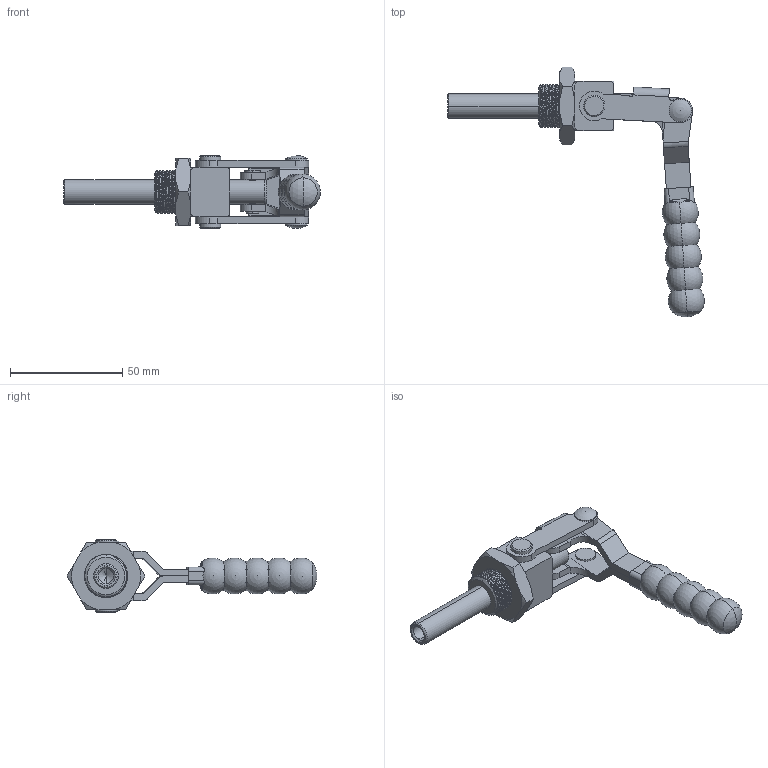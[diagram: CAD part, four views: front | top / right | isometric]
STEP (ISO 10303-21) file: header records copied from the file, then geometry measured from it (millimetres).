
FILE_DESCRIPTION (( 'STEP AP214' ), '1' );
FILE_NAME ('ISK-FM1500.STEP', '2015-08-20T02:18:57', ( '' ), ( '' ), 'SwSTEP 2.0', 'SolidWorks 2015', '' );
FILE_SCHEMA (( 'AUTOMOTIVE_DESIGN' ));
Length unit declared in the file: millimetre
Products named in the file (10): Grip; Rivet_Φ4×17; Rivet_Φ5×06; Handle_A; Rivet_兂5亊6; Nut_M20; Link-2; Arm; Guide; ISK-FM1500
Assembly tree (11 placements, depth 2):
  ISK-FM1500
    Guide
    Arm
    Link-2
    Nut_M20
    Rivet_兂5亊6  x2
    Handle_A
    Rivet_Φ5×06  x2
    Rivet_Φ4×17
    Grip
Bounding box: 114.11 x 111.11 x 32.4 mm (x, y, z)
Volume: 38602.6 mm3; surface area: 27785.7 mm2
Topology: 12 solids, 12 shells, 294 faces, 766 edges, 490 vertices
Faces by surface type: cylinder 122, plane 97, cone 43, bspline 16, sphere 14, torus 2
Entity records: 24075 total; most frequent: CARTESIAN_POINT 17126, ORIENTED_EDGE 1390, DIRECTION 1314, EDGE_CURVE 695, AXIS2_PLACEMENT_3D 513, VERTEX_POINT 447, EDGE_LOOP 304, VECTOR 288
